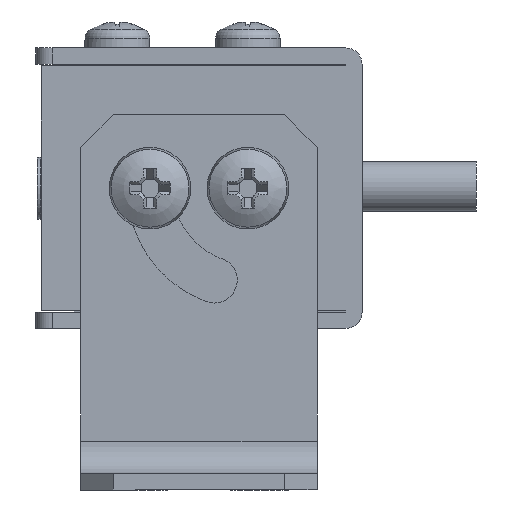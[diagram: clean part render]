
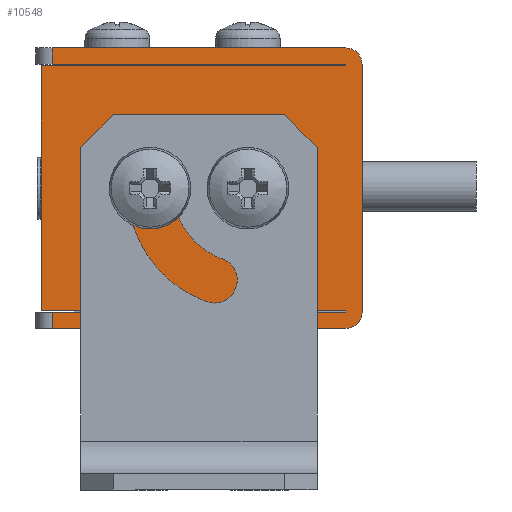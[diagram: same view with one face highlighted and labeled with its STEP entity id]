
A CAD part, left-side view. The second image highlights one B-rep face of the part: STEP entity #10548.
In plain terms, the highlighted planar face has unit normal (-1, 0, 0).
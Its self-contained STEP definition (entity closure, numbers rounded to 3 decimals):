
#261=PLANE('',#11439);
#405=FACE_BOUND('',#1740,.T.);
#406=FACE_BOUND('',#1741,.T.);
#1136=FACE_OUTER_BOUND('',#1739,.T.);
#1739=EDGE_LOOP('',(#8037,#8038,#8039,#8040,#8041,#8042,#8043,#8044,#8045,
#8046,#8047,#8048,#8049,#8050));
#1740=EDGE_LOOP('',(#8051));
#1741=EDGE_LOOP('',(#8052));
#2173=LINE('',#17201,#2762);
#2185=LINE('',#17245,#2774);
#2193=LINE('',#17261,#2782);
#2283=LINE('',#18385,#2872);
#2302=LINE('',#18431,#2891);
#2304=LINE('',#18437,#2893);
#2308=LINE('',#18445,#2897);
#2311=LINE('',#18454,#2900);
#2314=LINE('',#18462,#2903);
#2317=LINE('',#18473,#2906);
#2323=LINE('',#18487,#2912);
#2324=LINE('',#18488,#2913);
#2762=VECTOR('',#12923,1000.);
#2774=VECTOR('',#12959,10.);
#2782=VECTOR('',#12969,10.);
#2872=VECTOR('',#13453,1000.);
#2891=VECTOR('',#13500,1000.);
#2893=VECTOR('',#13506,1000.);
#2897=VECTOR('',#13512,1000.);
#2900=VECTOR('',#13519,1000.);
#2903=VECTOR('',#13526,1000.);
#2906=VECTOR('',#13535,1000.);
#2912=VECTOR('',#13549,1000.);
#2913=VECTOR('',#13550,1000.);
#3335=CIRCLE('',#11079,1.25);
#3337=CIRCLE('',#11082,1.25);
#3512=CIRCLE('',#11440,1.);
#3513=CIRCLE('',#11441,1.);
#4068=VERTEX_POINT('',#16520);
#4070=VERTEX_POINT('',#16526);
#4176=VERTEX_POINT('',#17199);
#4177=VERTEX_POINT('',#17200);
#4197=VERTEX_POINT('',#17244);
#4204=VERTEX_POINT('',#17260);
#4377=VERTEX_POINT('',#18383);
#4390=VERTEX_POINT('',#18429);
#4391=VERTEX_POINT('',#18435);
#4392=VERTEX_POINT('',#18436);
#4395=VERTEX_POINT('',#18444);
#4398=VERTEX_POINT('',#18451);
#4399=VERTEX_POINT('',#18453);
#4402=VERTEX_POINT('',#18461);
#4406=VERTEX_POINT('',#18471);
#4407=VERTEX_POINT('',#18472);
#5204=EDGE_CURVE('',#4068,#4068,#3335,.T.);
#5207=EDGE_CURVE('',#4070,#4070,#3337,.T.);
#5368=EDGE_CURVE('',#4176,#4177,#2173,.T.);
#5389=EDGE_CURVE('',#4197,#4176,#2185,.T.);
#5397=EDGE_CURVE('',#4204,#4177,#2193,.T.);
#5663=EDGE_CURVE('',#4377,#4197,#2283,.T.);
#5684=EDGE_CURVE('',#4390,#4377,#2302,.T.);
#5686=EDGE_CURVE('',#4391,#4392,#2304,.T.);
#5690=EDGE_CURVE('',#4204,#4395,#2308,.T.);
#5694=EDGE_CURVE('',#4398,#4399,#2311,.T.);
#5698=EDGE_CURVE('',#4395,#4402,#2314,.T.);
#5703=EDGE_CURVE('',#4406,#4407,#2317,.T.);
#5711=EDGE_CURVE('',#4398,#4402,#2323,.T.);
#5712=EDGE_CURVE('',#4390,#4406,#2324,.T.);
#5713=EDGE_CURVE('',#4407,#4392,#3512,.T.);
#5714=EDGE_CURVE('',#4391,#4399,#3513,.T.);
#8037=ORIENTED_EDGE('',*,*,#5694,.F.);
#8038=ORIENTED_EDGE('',*,*,#5711,.T.);
#8039=ORIENTED_EDGE('',*,*,#5698,.F.);
#8040=ORIENTED_EDGE('',*,*,#5690,.F.);
#8041=ORIENTED_EDGE('',*,*,#5397,.T.);
#8042=ORIENTED_EDGE('',*,*,#5368,.F.);
#8043=ORIENTED_EDGE('',*,*,#5389,.F.);
#8044=ORIENTED_EDGE('',*,*,#5663,.F.);
#8045=ORIENTED_EDGE('',*,*,#5684,.F.);
#8046=ORIENTED_EDGE('',*,*,#5712,.T.);
#8047=ORIENTED_EDGE('',*,*,#5703,.T.);
#8048=ORIENTED_EDGE('',*,*,#5713,.T.);
#8049=ORIENTED_EDGE('',*,*,#5686,.F.);
#8050=ORIENTED_EDGE('',*,*,#5714,.T.);
#8051=ORIENTED_EDGE('',*,*,#5204,.T.);
#8052=ORIENTED_EDGE('',*,*,#5207,.T.);
#10548=ADVANCED_FACE('',(#1136,#405,#406),#261,.F.);
#11079=AXIS2_PLACEMENT_3D('',#16521,#12619,#12620);
#11082=AXIS2_PLACEMENT_3D('',#16527,#12626,#12627);
#11439=AXIS2_PLACEMENT_3D('',#18486,#13547,#13548);
#11440=AXIS2_PLACEMENT_3D('',#18489,#13551,#13552);
#11441=AXIS2_PLACEMENT_3D('',#18490,#13553,#13554);
#12619=DIRECTION('center_axis',(1.,0.,0.));
#12620=DIRECTION('ref_axis',(0.,0.,
1.));
#12626=DIRECTION('center_axis',(1.,0.,0.));
#12627=DIRECTION('ref_axis',(0.,0.,
1.));
#12923=DIRECTION('',(0.,0.,1.));
#12959=DIRECTION('',(0.,1.,0.));
#12969=DIRECTION('',(0.,1.,0.));
#13453=DIRECTION('',(0.,0.,1.));
#13500=DIRECTION('',(0.,-1.,0.));
#13506=DIRECTION('',(0.,0.,-1.));
#13512=DIRECTION('',(0.,0.,1.));
#13519=DIRECTION('',(0.,-1.,0.));
#13526=DIRECTION('',(0.,1.,0.));
#13535=DIRECTION('',(0.,-1.,0.));
#13547=DIRECTION('center_axis',(1.,0.,0.));
#13548=DIRECTION('ref_axis',(0.,0.,
-1.));
#13549=DIRECTION('',(0.,0.,-1.));
#13550=DIRECTION('',(0.,0.,-1.));
#13551=DIRECTION('center_axis',(-1.,0.,0.));
#13552=DIRECTION('ref_axis',(0.,0.,
-1.));
#13553=DIRECTION('center_axis',(-1.,0.,0.));
#13554=DIRECTION('ref_axis',(0.,0.,
-1.));
#16520=CARTESIAN_POINT('',(-94.5,7.,7.349));
#16521=CARTESIAN_POINT('Origin',(-94.5,7.,8.599));
#16526=CARTESIAN_POINT('',(-94.5,13.,7.349));
#16527=CARTESIAN_POINT('Origin',(-94.5,13.,8.599));
#17199=CARTESIAN_POINT('',(-94.5,19.65,1.099));
#17200=CARTESIAN_POINT('',(-94.5,19.65,16.099));
#17201=CARTESIAN_POINT('',(-94.5,19.65,1.099));
#17244=CARTESIAN_POINT('',(-94.5,1.,1.099));
#17245=CARTESIAN_POINT('',(-94.5,19.65,1.099));
#17260=CARTESIAN_POINT('',(-94.5,1.,16.099));
#17261=CARTESIAN_POINT('',(-94.5,19.65,16.099));
#18383=CARTESIAN_POINT('',(-94.5,1.,0.999));
#18385=CARTESIAN_POINT('',(-94.5,1.,0.999));
#18429=CARTESIAN_POINT('',(-94.5,19.,0.999));
#18431=CARTESIAN_POINT('',(-94.5,20.,0.999));
#18435=CARTESIAN_POINT('',(-94.5,0.,16.199));
#18436=CARTESIAN_POINT('',(-94.5,0.,0.999));
#18437=CARTESIAN_POINT('',(-94.5,0.,17.199));
#18444=CARTESIAN_POINT('',(-94.5,1.,16.199));
#18445=CARTESIAN_POINT('',(-94.5,1.,0.999));
#18451=CARTESIAN_POINT('',(-94.5,19.,17.199));
#18453=CARTESIAN_POINT('',(-94.5,1.,17.199));
#18454=CARTESIAN_POINT('',(-94.5,20.,17.199));
#18461=CARTESIAN_POINT('',(-94.5,19.,16.199));
#18462=CARTESIAN_POINT('',(-94.5,20.,16.199));
#18471=CARTESIAN_POINT('',(-94.5,19.,-0.001));
#18472=CARTESIAN_POINT('',(-94.5,1.,-0.001));
#18473=CARTESIAN_POINT('',(-94.5,20.,-0.001));
#18486=CARTESIAN_POINT('Origin',(-94.5,20.,17.199));
#18487=CARTESIAN_POINT('',(-94.5,19.,17.199));
#18488=CARTESIAN_POINT('',(-94.5,19.,17.199));
#18489=CARTESIAN_POINT('Origin',(-94.5,1.,0.999));
#18490=CARTESIAN_POINT('Origin',(-94.5,1.,16.199));
